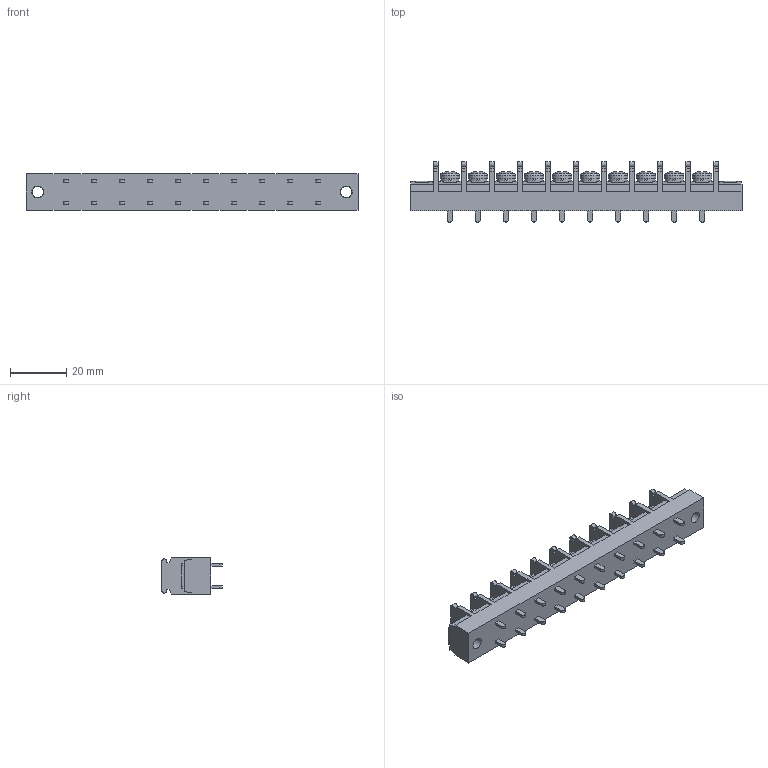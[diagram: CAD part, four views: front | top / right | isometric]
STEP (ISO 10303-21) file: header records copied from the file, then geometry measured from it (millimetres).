
FILE_DESCRIPTION(/* description */ ('Alibre Inc.'),/* implementation_level */ '2;1');
FILE_NAME(/* name */ 'export0',/* time_stamp */ '2015-10-17T19:07:45+09:00',/* author */ (''),/* organization */ (''),/* preprocessor_version */ 'ST-DEVELOPER v14',/* originating_system */ 'Alibre',/* authorisation */ '');
FILE_SCHEMA (('CONFIG_CONTROL_DESIGN'));
Length unit declared in the file: centimetre
Products named in the file (1): ID_1
Bounding box: 118.4 x 21.5 x 13 mm (x, y, z)
Volume: 17570.9 mm3; surface area: 10292.6 mm2
Topology: 1 solids, 17 shells, 1120 faces, 3038 edges, 2016 vertices
Faces by surface type: plane 846, bspline 104, cylinder 100, cone 40, torus 20, sphere 10
Full cylindrical faces by diameter (mm): 4 x12, 4.2 x2, 6.5 x10, 7 x10
Entity records: 34000 total; most frequent: CARTESIAN_POINT 7312, ORIENTED_EDGE 5924, DIRECTION 4342, EDGE_CURVE 2962, VECTOR 2192, LINE 2192, VERTEX_POINT 1984, AXIS2_PLACEMENT_3D 1488
